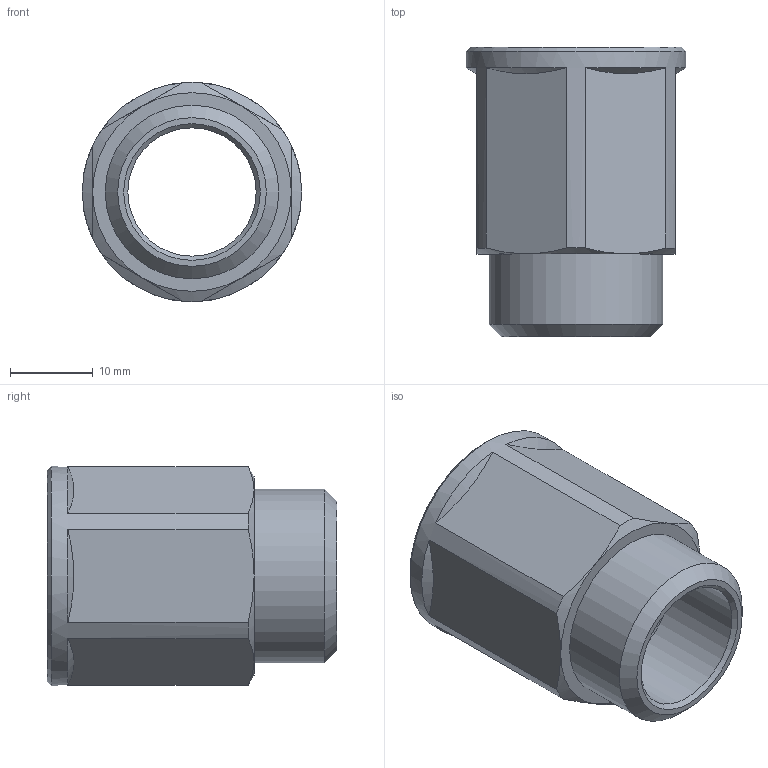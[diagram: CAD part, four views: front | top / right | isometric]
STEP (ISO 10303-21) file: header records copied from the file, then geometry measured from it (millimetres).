
FILE_DESCRIPTION(('STEP AP203'), '1');
FILE_NAME('ÂÐ.753128.017 - VTr.197.N.0425 Ôèò. ðåçüá. óäë', '2024-06-27T05:56:45', ('Boss'), (''), 'C3D Converter', 'C3D Toolkit', '');
FILE_SCHEMA(('CONFIG_CONTROL_DESIGN'));
Length unit declared in the file: millimetre
Products named in the file (1): ВР.753128.017
Bounding box: 26.5 x 35 x 26.5 mm (x, y, z)
Volume: 6539.9 mm3; surface area: 5387.7 mm2
Topology: 1 solids, 1 shells, 33 faces, 73 edges, 45 vertices
Faces by surface type: cone 16, plane 11, cylinder 5, torus 1
Full cylindrical faces by diameter (mm): 15.5 x1, 18.632 x1, 20.955 x1, 21.5 x1, 26.5 x1
Entity records: 1352 total; most frequent: CARTESIAN_POINT 646, DIRECTION 142, ORIENTED_EDGE 122, AXIS2_PLACEMENT_3D 65, EDGE_CURVE 61, VERTEX_POINT 50, EDGE_LOOP 47, ADVANCED_FACE 32
